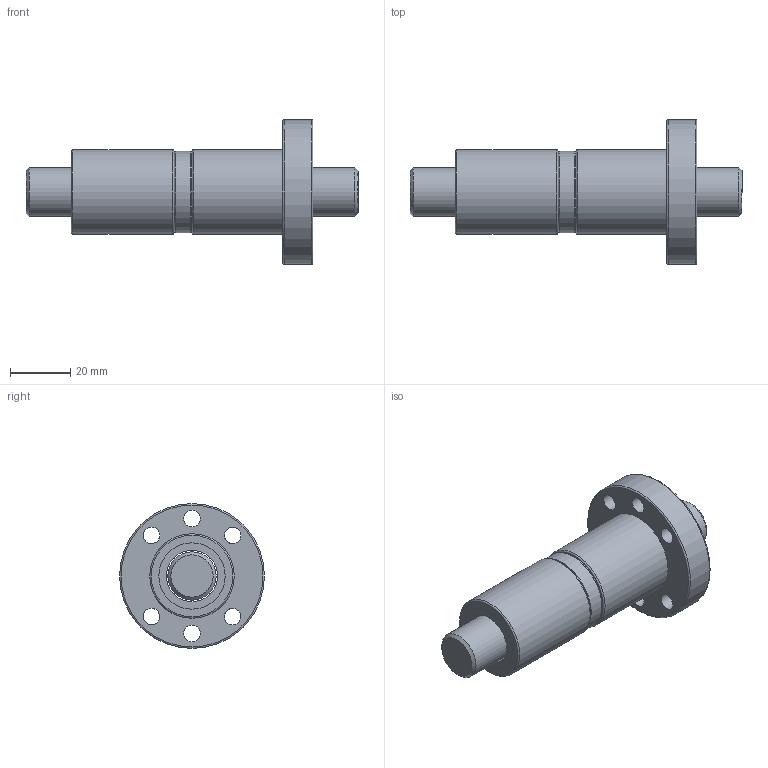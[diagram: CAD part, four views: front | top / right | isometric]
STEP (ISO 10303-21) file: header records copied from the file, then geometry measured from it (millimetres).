
FILE_DESCRIPTION(/* description */ (''),/* implementation_level */ '2;1');
FILE_NAME(/* name */ 'DFU1604',/* time_stamp */ '2007-10-26T10:51:54+08:00',/* author */ (''),/* organization */ (''),/* preprocessor_version */ 'ST-DEVELOPER v9',/* originating_system */ 'EDS PLM SOLUTIONS - UNIGRAPHICS NX 1.0',/* authorisation */ '');
FILE_SCHEMA (('CONFIG_CONTROL_DESIGN'));
Length unit declared in the file: millimetre
Products named in the file (1): FANNDA0400cj
Bounding box: 110 x 48 x 48 mm (x, y, z)
Volume: 63384.6 mm3; surface area: 25010.9 mm2
Topology: 6 solids, 6 shells, 44 faces, 83 edges, 54 vertices
Faces by surface type: cylinder 20, plane 15, torus 7, cone 2
Full cylindrical faces by diameter (mm): 5.5 x6, 16 x1, 17 x5, 22 x4, 27 x1, 28 x2, 48 x1
Entity records: 1054 total; most frequent: DIRECTION 188, CARTESIAN_POINT 143, EDGE_LOOP 98, ORIENTED_EDGE 98, AXIS2_PLACEMENT_3D 94, FACE_BOUND 81, VERTEX_POINT 49, EDGE_CURVE 49
